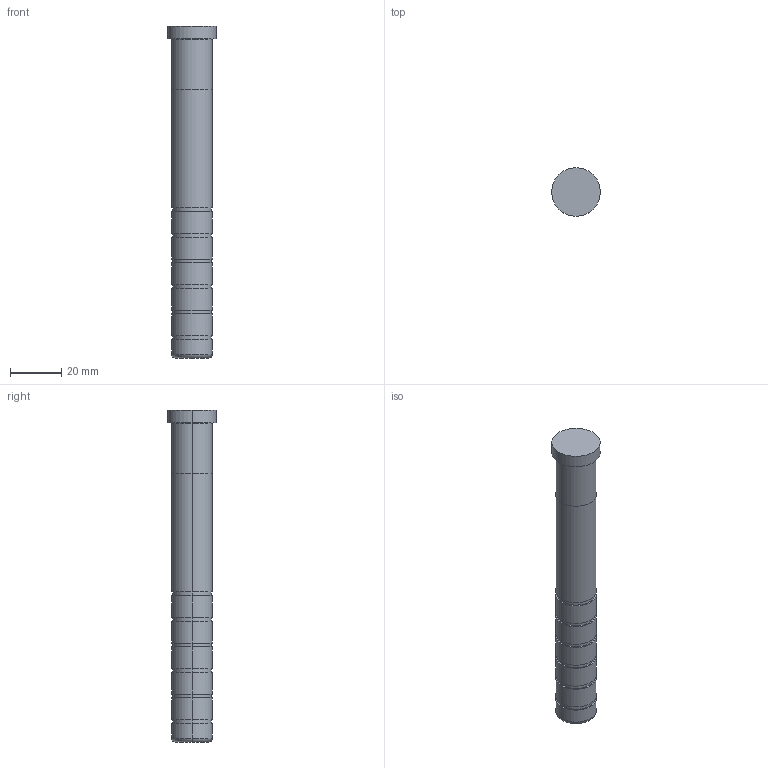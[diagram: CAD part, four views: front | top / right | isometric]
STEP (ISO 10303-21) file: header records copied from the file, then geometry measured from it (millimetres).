
FILE_DESCRIPTION(/* description */ (''),/* implementation_level */ '2;1');
FILE_NAME(/* name */ '3d_sgoh16-130_05190_r00.stp',/* time_stamp */ '2011-01-10T14:11:09+09:00',/* author */ ('MISUMI'),/* organization */ (''),/* preprocessor_version */ 'ST-DEVELOPER v11',/* originating_system */ 'UGS - NX 5.0',/* authorisation */ '');
FILE_SCHEMA (('CONFIG_CONTROL_DESIGN'));
Length unit declared in the file: millimetre
Products named in the file (1): 3d_sgoh16-130_05190_r00
Bounding box: 19 x 19 x 130 mm (x, y, z)
Volume: 26308.7 mm3; surface area: 7373.9 mm2
Topology: 1 solids, 1 shells, 49 faces, 96 edges, 62 vertices
Faces by surface type: cylinder 30, plane 15, torus 4
Entity records: 1374 total; most frequent: DIRECTION 262, CARTESIAN_POINT 208, ORIENTED_EDGE 192, AXIS2_PLACEMENT_3D 116, EDGE_CURVE 96, CIRCLE 66, EDGE_LOOP 62, VERTEX_POINT 62
